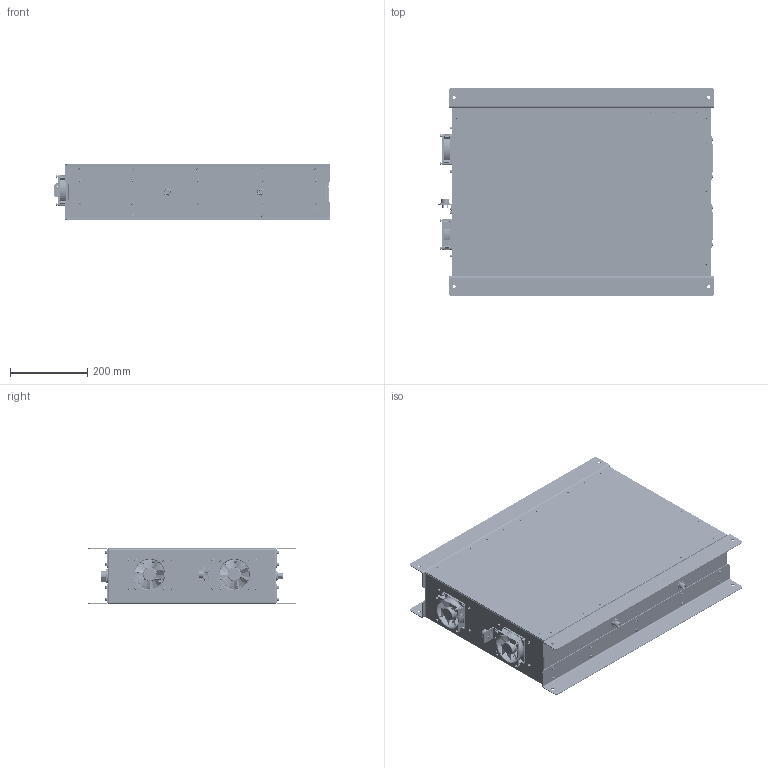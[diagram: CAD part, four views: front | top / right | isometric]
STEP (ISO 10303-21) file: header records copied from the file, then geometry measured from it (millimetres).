
FILE_DESCRIPTION(/* description */ ('Unknown'),/* implementation_level */ '2;1');
FILE_NAME(/* name */ '800303 1501 -',/* time_stamp */ '2022-05-25T12:12:42+02:00',/* author */ ('Unknown'),/* organization */ ('Unknown'),/* preprocessor_version */ 'ST-DEVELOPER v18.1',/* originating_system */ 'Solid Edge',/* authorisation */ 'Unknown');
FILE_SCHEMA (('AUTOMOTIVE_DESIGN {1 0 10303 214 3 1 1}'));
Products named in the file (1): 800303 1501 -
Bounding box: 712 x 540 x 145 mm (x, y, z)
Volume: 2562576 mm3; surface area: 2590787.6 mm2
Topology: 245 solids, 247 shells, 7128 faces, 17671 edges, 11265 vertices
Faces by surface type: plane 4103, cone 1608, cylinder 1108, torus 234, sphere 39, bspline 36
Full cylindrical faces by diameter (mm): 0.6 x2, 1.76 x4, 2 x2, 2.459 x104, 2.98 x4, 3 x34, 3.2 x4, 3.242 x16, 3.3 x28, 3.45 x72, 3.5 x4, 4 x108, 4.3 x72, 4.4 x40, 4.5 x36, 4.8 x1, 5.5 x72, 5.64 x1, 6 x48, 6.96 x4, 7 x73, 7.56 x4, 8 x8, 8.4 x36, 8.6 x4, 9.4 x4, 10.98 x4, 12 x1, 12.22 x4, 13.5 x4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
Entity records: 211166 total; most frequent: CARTESIAN_POINT 50971, DIRECTION 30989, ORIENTED_EDGE 30890, EDGE_CURVE 15445, AXIS2_PLACEMENT_3D 11172, VERTEX_POINT 10729, FACE_BOUND 9806, EDGE_LOOP 9729
